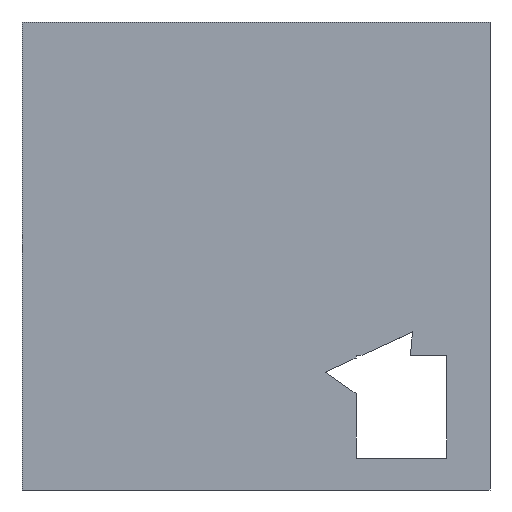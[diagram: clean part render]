
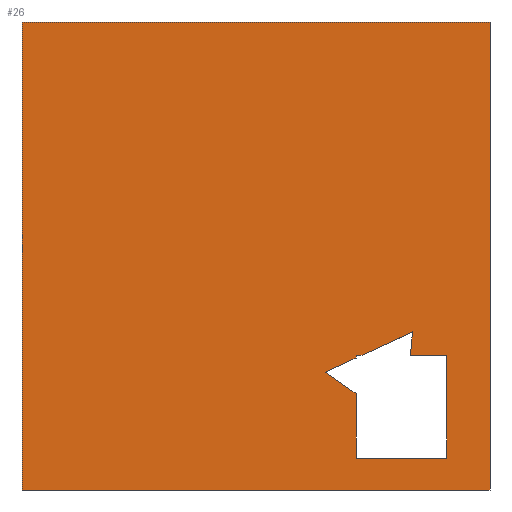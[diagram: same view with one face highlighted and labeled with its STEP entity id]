
A CAD part, left-side view. The second image highlights one B-rep face of the part: STEP entity #26.
In plain terms, the highlighted planar face has unit normal (-1, 0, 0).
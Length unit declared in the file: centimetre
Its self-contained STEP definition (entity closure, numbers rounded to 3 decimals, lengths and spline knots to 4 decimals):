
#2 = CARTESIAN_POINT ( 'NONE',  ( 0., 0., 1000. ) ) ;
#26 = ADVANCED_FACE ( 'NONE', ( #710, #454 ), #1529, .F. ) ;
#55 = CARTESIAN_POINT ( 'NONE',  ( 0., 92.3138, 68.0175 ) ) ;
#79 = VECTOR ( 'NONE', #1180, 100. ) ;
#80 = VECTOR ( 'NONE', #554, 100. ) ;
#84 = VERTEX_POINT ( 'NONE', #1535 ) ;
#87 = LINE ( 'NONE', #818, #381 ) ;
#139 = VERTEX_POINT ( 'NONE', #384 ) ;
#164 = VECTOR ( 'NONE', #951, 100. ) ;
#167 = VERTEX_POINT ( 'NONE', #1498 ) ;
#181 = CARTESIAN_POINT ( 'NONE',  ( 0., 170.1476, 287.9064 ) ) ;
#184 = VERTEX_POINT ( 'NONE', #1358 ) ;
#187 = LINE ( 'NONE', #673, #80 ) ;
#195 = VECTOR ( 'NONE', #1275, 100. ) ;
#196 = EDGE_CURVE ( 'NONE', #1161, #184, #1007, .T. ) ;
#203 = DIRECTION ( 'NONE',  ( 0., 0., 1. ) ) ;
#208 = VERTEX_POINT ( 'NONE', #372 ) ;
#214 = VECTOR ( 'NONE', #1353, 100. ) ;
#254 = CARTESIAN_POINT ( 'NONE',  ( 0., 165.6413, 337.833 ) ) ;
#259 = EDGE_CURVE ( 'NONE', #670, #826, #522, .T. ) ;
#261 = ORIENTED_EDGE ( 'NONE', *, *, #403, .F. ) ;
#283 = LINE ( 'NONE', #683, #287 ) ;
#287 = VECTOR ( 'NONE', #1152, 100. ) ;
#335 = LINE ( 'NONE', #588, #214 ) ;
#361 = CARTESIAN_POINT ( 'NONE',  ( 0., 92.3138, 287.9064 ) ) ;
#372 = CARTESIAN_POINT ( 'NONE',  ( 0., 286.2378, 68.0175 ) ) ;
#381 = VECTOR ( 'NONE', #1064, 100. ) ;
#384 = CARTESIAN_POINT ( 'NONE',  ( 0., 351.4627, 251.8041 ) ) ;
#387 = ORIENTED_EDGE ( 'NONE', *, *, #259, .F. ) ;
#397 = EDGE_LOOP ( 'NONE', ( #1453, #843, #1009, #988, #607, #1512, #1197, #387, #1066, #971 ) ) ;
#403 = EDGE_CURVE ( 'NONE', #1051, #84, #558, .T. ) ;
#434 = VECTOR ( 'NONE', #1599, 100. ) ;
#454 = FACE_OUTER_BOUND ( 'NONE', #475, .T. ) ;
#466 = VECTOR ( 'NONE', #203, 100. ) ;
#475 = EDGE_LOOP ( 'NONE', ( #872, #261, #1240, #1604 ) ) ;
#480 = DIRECTION ( 'NONE',  ( 0., 0., -1. ) ) ;
#517 = VECTOR ( 'NONE', #1022, 100. ) ;
#522 = LINE ( 'NONE', #1424, #517 ) ;
#554 = DIRECTION ( 'NONE',  ( 0., -1., 0. ) ) ;
#558 = LINE ( 'NONE', #1062, #434 ) ;
#588 = CARTESIAN_POINT ( 'NONE',  ( 0., 286.2378, 68.0175 ) ) ;
#607 = ORIENTED_EDGE ( 'NONE', *, *, #1254, .F. ) ;
#638 = CARTESIAN_POINT ( 'NONE',  ( 0., 92.3138, 68.0175 ) ) ;
#644 = EDGE_CURVE ( 'NONE', #1546, #1481, #1606, .T. ) ;
#651 = VECTOR ( 'NONE', #947, 100. ) ;
#670 = VERTEX_POINT ( 'NONE', #737 ) ;
#673 = CARTESIAN_POINT ( 'NONE',  ( 0., 1000., 1000. ) ) ;
#683 = CARTESIAN_POINT ( 'NONE',  ( 0., 165.6413, 337.833 ) ) ;
#703 = VECTOR ( 'NONE', #1186, 100. ) ;
#710 = FACE_BOUND ( 'NONE', #397, .T. ) ;
#737 = CARTESIAN_POINT ( 'NONE',  ( 0., 92.3138, 287.9064 ) ) ;
#749 = LINE ( 'NONE', #361, #1091 ) ;
#785 = VERTEX_POINT ( 'NONE', #1594 ) ;
#818 = CARTESIAN_POINT ( 'NONE',  ( 0., 286.2378, 68.0175 ) ) ;
#823 = EDGE_CURVE ( 'NONE', #1481, #84, #933, .T. ) ;
#826 = VERTEX_POINT ( 'NONE', #181 ) ;
#843 = ORIENTED_EDGE ( 'NONE', *, *, #992, .F. ) ;
#872 = ORIENTED_EDGE ( 'NONE', *, *, #823, .T. ) ;
#933 = LINE ( 'NONE', #1469, #79 ) ;
#941 = LINE ( 'NONE', #1193, #651 ) ;
#946 = CARTESIAN_POINT ( 'NONE',  ( 0., 1000., 1000. ) ) ;
#947 = DIRECTION ( 'NONE',  ( 0., -0.818, -0.576 ) ) ;
#948 = LINE ( 'NONE', #55, #466 ) ;
#951 = DIRECTION ( 'NONE',  ( 0., 0., -1. ) ) ;
#971 = ORIENTED_EDGE ( 'NONE', *, *, #1543, .F. ) ;
#988 = ORIENTED_EDGE ( 'NONE', *, *, #1008, .F. ) ;
#992 = EDGE_CURVE ( 'NONE', #139, #785, #941, .T. ) ;
#1007 = LINE ( 'NONE', #1549, #195 ) ;
#1008 = EDGE_CURVE ( 'NONE', #1171, #167, #87, .T. ) ;
#1009 = ORIENTED_EDGE ( 'NONE', *, *, #1080, .F. ) ;
#1022 = DIRECTION ( 'NONE',  ( 0., 1., 0. ) ) ;
#1037 = EDGE_CURVE ( 'NONE', #785, #208, #335, .T. ) ;
#1049 = LINE ( 'NONE', #1166, #703 ) ;
#1051 = VERTEX_POINT ( 'NONE', #2 ) ;
#1062 = CARTESIAN_POINT ( 'NONE',  ( 0., 0., 1000. ) ) ;
#1064 = DIRECTION ( 'NONE',  ( 0., 0., -1. ) ) ;
#1066 = ORIENTED_EDGE ( 'NONE', *, *, #1611, .F. ) ;
#1080 = EDGE_CURVE ( 'NONE', #167, #139, #283, .T. ) ;
#1091 = VECTOR ( 'NONE', #1123, 100. ) ;
#1123 = DIRECTION ( 'NONE',  ( 0., 1., 0. ) ) ;
#1132 = DIRECTION ( 'NONE',  ( 0., -1., 0. ) ) ;
#1152 = DIRECTION ( 'NONE',  ( 0., 0.907, -0.42 ) ) ;
#1160 = VERTEX_POINT ( 'NONE', #1387 ) ;
#1161 = VERTEX_POINT ( 'NONE', #254 ) ;
#1166 = CARTESIAN_POINT ( 'NONE',  ( 0., 184.0487, 133.8925 ) ) ;
#1171 = VERTEX_POINT ( 'NONE', #1571 ) ;
#1180 = DIRECTION ( 'NONE',  ( 0., -1., 0. ) ) ;
#1186 = DIRECTION ( 'NONE',  ( 0., -0.09, 0.996 ) ) ;
#1193 = CARTESIAN_POINT ( 'NONE',  ( 0., 351.4627, 251.8041 ) ) ;
#1197 = ORIENTED_EDGE ( 'NONE', *, *, #1592, .F. ) ;
#1224 = DIRECTION ( 'NONE',  ( 1., 0., 0. ) ) ;
#1240 = ORIENTED_EDGE ( 'NONE', *, *, #1569, .F. ) ;
#1254 = EDGE_CURVE ( 'NONE', #184, #1171, #749, .T. ) ;
#1267 = LINE ( 'NONE', #638, #1495 ) ;
#1275 = DIRECTION ( 'NONE',  ( 0., 0.907, -0.42 ) ) ;
#1288 = AXIS2_PLACEMENT_3D ( 'NONE', #1620, #1224, #480 ) ;
#1353 = DIRECTION ( 'NONE',  ( 0., 0., -1. ) ) ;
#1358 = CARTESIAN_POINT ( 'NONE',  ( 0., 273.482, 287.9064 ) ) ;
#1387 = CARTESIAN_POINT ( 'NONE',  ( 0., 92.3138, 68.0175 ) ) ;
#1413 = CARTESIAN_POINT ( 'NONE',  ( 0., 1000., 0. ) ) ;
#1424 = CARTESIAN_POINT ( 'NONE',  ( 0., 92.3138, 287.9064 ) ) ;
#1453 = ORIENTED_EDGE ( 'NONE', *, *, #1037, .F. ) ;
#1469 = CARTESIAN_POINT ( 'NONE',  ( 0., 1000., 0. ) ) ;
#1481 = VERTEX_POINT ( 'NONE', #1413 ) ;
#1495 = VECTOR ( 'NONE', #1132, 100. ) ;
#1498 = CARTESIAN_POINT ( 'NONE',  ( 0., 286.2378, 282.0009 ) ) ;
#1512 = ORIENTED_EDGE ( 'NONE', *, *, #196, .F. ) ;
#1529 = PLANE ( 'NONE',  #1288 ) ;
#1535 = CARTESIAN_POINT ( 'NONE',  ( 0., 0., 0. ) ) ;
#1543 = EDGE_CURVE ( 'NONE', #208, #1160, #1267, .T. ) ;
#1546 = VERTEX_POINT ( 'NONE', #1610 ) ;
#1549 = CARTESIAN_POINT ( 'NONE',  ( 0., 165.6413, 337.833 ) ) ;
#1569 = EDGE_CURVE ( 'NONE', #1546, #1051, #187, .T. ) ;
#1571 = CARTESIAN_POINT ( 'NONE',  ( 0., 286.2378, 287.9064 ) ) ;
#1592 = EDGE_CURVE ( 'NONE', #826, #1161, #1049, .T. ) ;
#1594 = CARTESIAN_POINT ( 'NONE',  ( 0., 286.2378, 205.8654 ) ) ;
#1599 = DIRECTION ( 'NONE',  ( 0., 0., -1. ) ) ;
#1604 = ORIENTED_EDGE ( 'NONE', *, *, #644, .T. ) ;
#1606 = LINE ( 'NONE', #946, #164 ) ;
#1610 = CARTESIAN_POINT ( 'NONE',  ( 0., 1000., 1000. ) ) ;
#1611 = EDGE_CURVE ( 'NONE', #1160, #670, #948, .T. ) ;
#1620 = CARTESIAN_POINT ( 'NONE',  ( 0., 1000., 1000. ) ) ;
